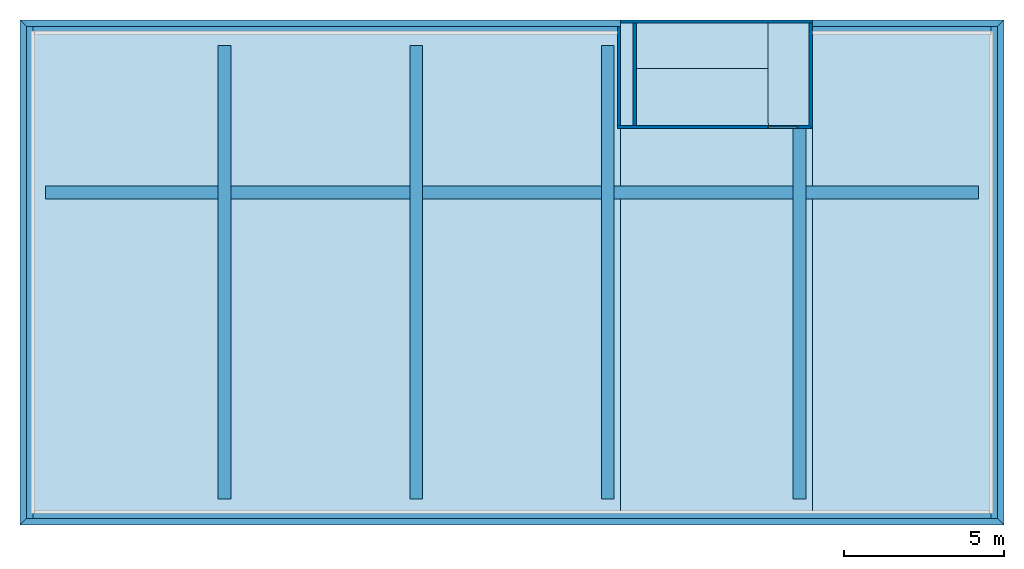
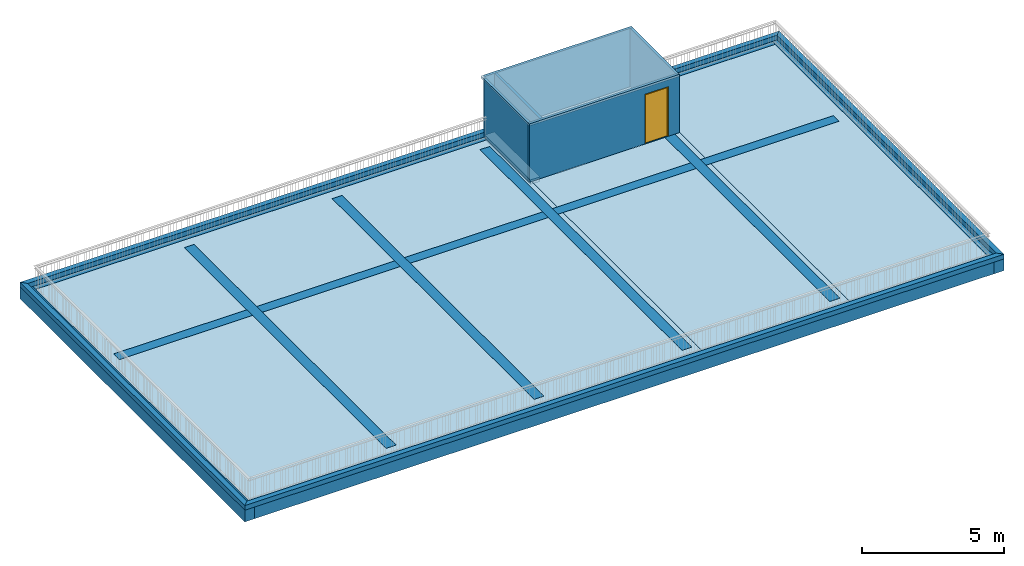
# One storey, part 1 of 2: 10 walls, 9 beams, 7 slabs, 1 door, 1 opening.
"""IFC2X3 building model written with IfcOpenShell, lengths in millimetres."""

from ifc_helpers import new_model, entity, si_unit, converted_unit, direction, frame, frame_2d, origin_with_axes, origin_2d_with_axis, place, context, project, spatial, polyline, rectangle, outline, extrude, open_shell, surface_model, material, layer, layer_set, layer_usage, type_object, element, fill, save


model = new_model("IFC2X3")

# Units and contexts
model_context = context("Model", 3, precision=1e-05, world=origin_with_axes(), true_north=direction((0.0, 1.0)))
ifc_project = project(units=[si_unit("LENGTHUNIT", "METRE", prefix="MILLI"), si_unit("AREAUNIT", "SQUARE_METRE"), si_unit("VOLUMEUNIT", "CUBIC_METRE"), converted_unit("PLANEANGLEUNIT", "DEGREE", entity("IfcPlaneAngleMeasure", 0.017453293), si_unit("PLANEANGLEUNIT", "RADIAN"), dimensions=[0, 0, 0, 0, 0, 0, 0]), si_unit("SOLIDANGLEUNIT", "STERADIAN"), si_unit("MASSUNIT", "GRAM"), si_unit("TIMEUNIT", "SECOND"), si_unit("THERMODYNAMICTEMPERATUREUNIT", "DEGREE_CELSIUS"), si_unit("LUMINOUSINTENSITYUNIT", "LUMEN")], contexts=[model_context])

# Site, building, storey
site_placement = place(None, origin_with_axes())
site = spatial("IfcSite", under=ifc_project, at=site_placement, Name="\x83T\x83C\x83g", CompositionType="ELEMENT")
building_placement = place(site_placement, origin_with_axes())
building = spatial("IfcBuilding", under=site, at=building_placement, Name="Daitec-Sample 201208", CompositionType="ELEMENT")
storey_placement = place(building_placement, frame((0.0, 0.0, 12000.0), z_axis=(0.0, 0.0, 1.0), x_axis=(1.0, 0.0, 0.0)))
storey = spatial("IfcBuildingStorey", under=building, at=storey_placement, Name="RF", CompositionType="ELEMENT", Elevation=12000.0)

# Beams
ifc_material_1 = material(Name="\x83R\x83\x93\x83N\x83\x8a\x81[\x83g-\x8d\\\x91¢2")
beam_type = type_object("IfcBeamType", Name="500X400", PredefinedType="NOTDEFINED")
beam_1_placement = place(storey_placement, frame((12500.0, 23000.0, 0.0), z_axis=(0.0, 0.0, 1.0), x_axis=(-1.0, 0.0, 0.0)))
element("IfcBeam", 1, at=beam_1_placement, inside=storey, type_object=beam_type, material=ifc_material_1, Name="G0", ObjectType="500X400", context=model_context, shape_type="SweptSolid", body=[
    extrude(rectangle(XDim=500.0, YDim=400.0, at=frame_2d((-250.0, 0.0), x_axis=(1.0, 0.0))), frame((0.0, 0.0, 0.0), z_axis=(0.0, 1.0, 0.0), x_axis=(0.0, 0.0, 1.0)), (0.0, 0.0, 1.0), 14200.0),
])
beam_2_placement = place(storey_placement, frame((36900.0, 23800.0, 0.0), z_axis=(0.0, 0.0, 1.0), x_axis=(0.0, 1.0, 0.0)))
element("IfcBeam", 2, at=beam_2_placement, inside=storey, type_object=beam_type, material=ifc_material_1, Name="G8", ObjectType="500X400", context=model_context, shape_type="SweptSolid", body=[
    extrude(rectangle(XDim=500.0, YDim=400.0, at=frame_2d((-250.0, -200.0), x_axis=(1.0, 0.0))), frame((0.0, 0.0, 0.0), z_axis=(0.0, 1.0, 0.0), x_axis=(0.0, 0.0, 1.0)), (0.0, 0.0, 1.0), 30800.0),
])
for number, where, z_axis, x_axis, name in (
    (3, (36900.0, 8000.0, 0.0), (0.0, 0.0, 1.0), (1.0, 0.0, 0.0), "G7"),
    (4, (6100.0, 23800.0, 0.0), (0.0, 0.0, 1.0), (-1.0, 0.0, 0.0), "G9"),
):
    element("IfcBeam", number, at=place(storey_placement, frame(where, z_axis=z_axis, x_axis=x_axis)), inside=storey, type_object=beam_type, material=ifc_material_1, Name=name, ObjectType="500X400", context=model_context, shape_type="SweptSolid", body=[
        extrude(rectangle(XDim=500.0, YDim=400.0, at=frame_2d((-250.0, -200.0), x_axis=(1.0, 0.0))), frame((0.0, 0.0, 0.0), z_axis=(0.0, 1.0, 0.0), x_axis=(0.0, 0.0, 1.0)), (0.0, 0.0, 1.0), 15800.0),
    ])
beam_3_placement = place(storey_placement, frame((24500.0, 23000.0, 0.0), z_axis=(0.0, 0.0, 1.0), x_axis=(-1.0, 0.0, 0.0)))
element("IfcBeam", 5, at=beam_3_placement, inside=storey, type_object=beam_type, material=ifc_material_1, Name="G2", ObjectType="500X400", context=model_context, shape_type="SweptSolid", body=[
    extrude(rectangle(XDim=500.0, YDim=400.0, at=frame_2d((-250.0, 0.0), x_axis=(1.0, 0.0))), frame((0.0, 0.0, 0.0), z_axis=(0.0, 1.0, 0.0), x_axis=(0.0, 0.0, 1.0)), (0.0, 0.0, 1.0), 14200.0),
])
beam_4_placement = place(storey_placement, frame((6100.0, 8000.0, 0.0), z_axis=(0.0, 0.0, 1.0), x_axis=(0.0, -1.0, 0.0)))
element("IfcBeam", 6, at=beam_4_placement, inside=storey, type_object=beam_type, material=ifc_material_1, Name="G6", ObjectType="500X400", context=model_context, shape_type="SweptSolid", body=[
    extrude(rectangle(XDim=500.0, YDim=400.0, at=frame_2d((-250.0, -200.0), x_axis=(1.0, 0.0))), frame((0.0, 0.0, 0.0), z_axis=(0.0, 1.0, 0.0), x_axis=(0.0, 0.0, 1.0)), (0.0, 0.0, 1.0), 30800.0),
])
for number, where, z_axis, x_axis, name in (
    (7, (30500.0, 23000.0, 0.0), (0.0, 0.0, 1.0), (-1.0, 0.0, 0.0), "G3"),
    (8, (18500.0, 23000.0, 0.0), (0.0, 0.0, 1.0), (-1.0, 0.0, 0.0), "G1"),
):
    element("IfcBeam", number, at=place(storey_placement, frame(where, z_axis=z_axis, x_axis=x_axis)), inside=storey, type_object=beam_type, material=ifc_material_1, Name=name, ObjectType="500X400", context=model_context, shape_type="SweptSolid", body=[
        extrude(rectangle(XDim=500.0, YDim=400.0, at=frame_2d((-250.0, 0.0), x_axis=(1.0, 0.0))), frame((0.0, 0.0, 0.0), z_axis=(0.0, 1.0, 0.0), x_axis=(0.0, 0.0, 1.0)), (0.0, 0.0, 1.0), 14200.0),
    ])
beam_5_placement = place(storey_placement, frame((6900.0, 18400.0, 0.0), z_axis=(0.0, 0.0, 1.0), x_axis=(0.0, -1.0, 0.0)))
element("IfcBeam", 9, at=beam_5_placement, inside=storey, type_object=beam_type, material=ifc_material_1, Name="G4", ObjectType="500X400", context=model_context, shape_type="SweptSolid", body=[
    extrude(rectangle(XDim=500.0, YDim=400.0, at=frame_2d((-250.0, 0.0), x_axis=(1.0, 0.0))), frame((0.0, 0.0, 0.0), z_axis=(0.0, 1.0, 0.0), x_axis=(0.0, 0.0, 1.0)), (0.0, 0.0, 1.0), 29200.0),
])

# Slabs
ifc_layer_1 = layer(ifc_material_1, 200.0, ventilated="UNKNOWN")
ifc_layer_set_1 = layer_set([ifc_layer_1], Name="\x83R\x83\x93\x83N\x83\x8a\x81[\x83g-\x8d\\\x91¢2 200")
ifc_layer_usage_1 = layer_usage(ifc_layer_set_1, "AXIS3", "NEGATIVE", 200.0)
slab_1_placement = place(storey_placement, frame((24900.0, 8000.0, -200.0), z_axis=(0.0, 0.0, 1.0), x_axis=(1.0, 0.0, 0.0)))
element("IfcSlab", 10, at=slab_1_placement, inside=storey, material=ifc_layer_usage_1, Name="S0", PredefinedType="FLOOR", context=model_context, shape_type="SweptSolid", body=[
    extrude(outline(polyline([(0.0, 0.0), (6000.0, 0.0), (6000.0, 12399.909), (0.0, 12399.909), (0.0, 0.0)])), origin_with_axes(), (0.0, 0.0, 1.0), 200.0),
])
ifc_layer_usage_2 = layer_usage(ifc_layer_set_1, "AXIS3", "NEGATIVE", 200.0)
slab_2_placement = place(storey_placement, frame((25393.973, 23700.0, -200.0), z_axis=(0.0, 0.0, 1.0), x_axis=(1.0, 0.0, 0.0)))
element("IfcSlab", 11, at=slab_2_placement, inside=storey, material=ifc_layer_usage_2, Name="S8", PredefinedType="FLOOR", context=model_context, shape_type="SweptSolid", body=[
    extrude(outline(polyline([(0.0, 0.0), (0.0, -1425.0), (4121.5693, -1425.189), (4117.1773, 0.0), (0.0, 0.0)])), origin_with_axes(), (0.0, 0.0, 1.0), 200.0),
])
ifc_material_2 = material(Name="\x93V\x88ä1")
ifc_layer_2 = layer(ifc_material_2, 100.0, ventilated="UNKNOWN")
ifc_layer_set_2 = layer_set([ifc_layer_2], Name="\x93V\x88ä1 100")
ifc_layer_usage_3 = layer_usage(ifc_layer_set_2, "AXIS3", "NEGATIVE", 100.0)
slab_3_placement = place(storey_placement, frame((24800.0, 23800.0, 2400.0), z_axis=(0.0, 0.0, 1.0), x_axis=(1.0, 0.0, 0.0)))
element("IfcSlab", 12, at=slab_3_placement, inside=storey, material=ifc_layer_usage_3, Name="S6", PredefinedType="FLOOR", context=model_context, shape_type="SweptSolid", body=[
    extrude(outline(polyline([(0.0, 0.0), (0.0, -3396.613), (6100.0, -3400.0911), (6100.0, 0.0), (0.0, 0.0)])), origin_with_axes(), (0.0, 0.0, 1.0), 100.0),
])
ifc_layer_usage_4 = layer_usage(ifc_layer_set_1, "AXIS3", "NEGATIVE", 200.0)
slab_4_placement = place(storey_placement, frame((29511.151, 23700.0, -200.0), z_axis=(0.0, 0.0, 1.0), x_axis=(1.0, 0.0, 0.0)))
element("IfcSlab", 13, at=slab_4_placement, inside=storey, material=ifc_layer_usage_4, Name="S6", PredefinedType="FLOOR", context=model_context, shape_type="SweptSolid", body=[
    extrude(outline(polyline([(0.0, 0.0), (10.159033, -3296.613), (1288.7902, -3300.0341), (1288.8492, 0.0), (0.0, 0.0)])), origin_with_axes(), (0.0, 0.0, 1.0), 200.0),
])
ifc_material_3 = material(Name="\x83v\x83\x89\x83X\x83^\x81[\x83{\x81[\x83h")
ifc_layer_3 = layer(ifc_material_3, 200.0, ventilated="UNKNOWN")
ifc_layer_set_3 = layer_set([ifc_layer_3], Name="\x83v\x83\x89\x83X\x83^\x81[\x83{\x81[\x83h 200")
ifc_layer_usage_5 = layer_usage(ifc_layer_set_3, "AXIS3", "NEGATIVE", 200.0)
slab_5_placement = place(storey_placement, frame((24900.0, 23700.0, -200.0), z_axis=(0.0, 0.0, 1.0), x_axis=(1.0, 0.0, 0.0)))
element("IfcSlab", 14, at=slab_5_placement, inside=storey, material=ifc_layer_usage_5, Name="S7", PredefinedType="FLOOR", context=model_context, shape_type="SweptSolid", body=[
    extrude(outline(polyline([(0.0, 0.0), (0.0, -3196.613), (393.97347, -3196.613), (393.97347, 0.0), (0.0, 0.0)])), origin_with_axes(), (0.0, 0.0, 1.0), 200.0),
])
ifc_layer_usage_6 = layer_usage(ifc_layer_set_1, "AXIS3", "NEGATIVE", 200.0)
slab_6_placement = place(storey_placement, frame((6100.0, 23800.0, -200.0), z_axis=(0.0, 0.0, 1.0), x_axis=(1.0, 0.0, 0.0)))
element("IfcSlab", 15, at=slab_6_placement, inside=storey, material=ifc_layer_usage_6, Name="S9", PredefinedType="FLOOR", context=model_context, shape_type="SweptSolid", body=[
    extrude(outline(polyline([(0.0, 0.0), (0.0, -15800.0), (18800.0, -15800.0), (18800.0, 0.0), (0.0, 0.0)])), origin_with_axes(), (0.0, 0.0, 1.0), 200.0),
])
ifc_layer_usage_7 = layer_usage(ifc_layer_set_1, "AXIS3", "NEGATIVE", 200.0)
slab_7_placement = place(storey_placement, frame((36900.0, 8000.0, -200.0), z_axis=(0.0, 0.0, 1.0), x_axis=(1.0, 0.0, 0.0)))
element("IfcSlab", 16, at=slab_7_placement, inside=storey, material=ifc_layer_usage_7, Name="S1", PredefinedType="FLOOR", context=model_context, shape_type="SweptSolid", body=[
    extrude(outline(polyline([(0.0, 0.0), (0.0, 15800.0), (-6000.0, 15800.0), (-6000.0, 0.0), (0.0, 0.0)])), origin_with_axes(), (0.0, 0.0, 1.0), 200.0),
])

# Wall, opening, door
ifc_layer_4 = layer(ifc_material_1, 100.0, ventilated="UNKNOWN")
ifc_layer_set_4 = layer_set([ifc_layer_4], Name="\x83R\x83\x93\x83N\x83\x8a\x81[\x83g-\x8d\\\x91¢2 100")
ifc_layer_usage_8 = layer_usage(ifc_layer_set_4, "AXIS2", "NEGATIVE", 0.0)
wall_type_1 = type_object("IfcWallType", Name="\x83R\x83\x93\x83N\x83\x8a\x81[\x83g-\x8d\\\x91¢2 100", PredefinedType="NOTDEFINED")
wall_1_placement = place(storey_placement, frame((30900.0, 20403.387, 0.0), z_axis=(0.0, 0.0, 1.0), x_axis=(-1.0, 0.0, 0.0)))
wall_1 = element("IfcWallStandardCase", 17, at=wall_1_placement, inside=storey, type_object=wall_type_1, material=ifc_layer_usage_8, Name="W3", context=model_context, shape_type="SweptSolid", body=[
    extrude(outline(polyline([(100.0, -100.0), (6100.0, -100.0), (6100.0, 0.0), (0.0, 0.0), (100.0, -100.0)])), origin_with_axes(), (0.0, 0.0, 1.0), 2500.0),
])
opening_placement = place(wall_1_placement, frame((928.69016, 0.0, 0.0), z_axis=(0.0, 0.0, 1.0), x_axis=(1.0, 0.0, 0.0)))
opening = element("IfcOpeningElement", 18, at=opening_placement, cuts=wall_1, context=model_context, shape_type="SweptSolid", body=[
    extrude(rectangle(XDim=960.0, YDim=2130.0, at=origin_2d_with_axis()), frame((0.0, -51.0, 1065.0), z_axis=(0.0, 1.0, 0.0), x_axis=(1.0, 0.0, 0.0)), (0.0, 0.0, 1.0), 102.0),
])
ifc_material_4 = material(Name="\x94w\x8ci")
door_style = type_object("IfcDoorStyle", ConstructionType="NOTDEFINED", OperationType="NOTDEFINED", ParameterTakesPrecedence=False, Sizeable=False)
door_placement = place(opening_placement, frame((450.0, 0.0, 0.0), z_axis=(0.0, 0.0, 1.0), x_axis=(-1.0, 0.0, 0.0)))
door = element("IfcDoor", 19, at=door_placement, inside=storey, type_object=door_style, material=ifc_material_4, Name="SD8", OverallHeight=2100.0, OverallWidth=900.0, context=model_context, shape_type="SurfaceModel", body=[
    surface_model("IfcShellBasedSurfaceModel", [(900.0, 50.0, 0.0), (900.0, 50.0, 2100.0), (0.0, 50.0, 2100.0), (0.0, 50.0, 0.0)], [open_shell([[[0, 1, 2, 3]]])]),
    surface_model("IfcShellBasedSurfaceModel", [(930.0, 0.0, 0.0), (930.0, 0.0, 2130.0), (-30.0, 0.0, 2130.0), (-30.0, 0.0, 0.0), (0.0, 0.0, 0.0), (0.0, 0.0, 2100.0), (900.0, 0.0, 2100.0), (900.0, 0.0, 0.0)], [open_shell([[[0, 1, 2, 3, 4, 5, 6, 7]]])]),
    surface_model("IfcShellBasedSurfaceModel", [(930.0, 100.0, 0.0), (930.0, 100.0, 2130.0), (-30.0, 100.0, 2130.0), (-30.0, 100.0, 0.0), (0.0, 100.0, 0.0), (0.0, 100.0, 2100.0), (900.0, 100.0, 2100.0), (900.0, 100.0, 0.0)], [open_shell([[[0, 1, 2, 3, 4, 5, 6, 7]]])]),
    surface_model("IfcShellBasedSurfaceModel", [(900.0, 0.0, 0.0), (900.0, 0.0, 2100.0), (900.0, 100.0, 2100.0), (900.0, 100.0, 0.0), (0.0, 0.0, 2100.0), (0.0, 100.0, 2100.0), (930.0, 0.0, 0.0), (930.0, 100.0, 0.0), (0.0, 0.0, 0.0), (0.0, 100.0, 0.0), (930.0, 0.0, 2130.0), (930.0, 100.0, 2130.0), (-30.0, 0.0, 0.0), (-30.0, 100.0, 0.0), (-30.0, 0.0, 2130.0), (-30.0, 100.0, 2130.0)], [open_shell([[[0, 1, 2, 3]], [[1, 4, 5, 2]], [[6, 0, 3, 7]], [[4, 8, 9, 5]], [[10, 6, 7, 11]], [[8, 12, 13, 9]], [[14, 10, 11, 15]], [[12, 14, 15, 13]]])]),
])
fill(opening, door)

# Walls
ifc_layer_usage_9 = layer_usage(ifc_layer_set_4, "AXIS2", "NEGATIVE", 0.0)
wall_2_placement = place(storey_placement, frame((30900.0, 23800.0, 0.0), z_axis=(0.0, 0.0, 1.0), x_axis=(0.0, -1.0, 0.0)))
element("IfcWallStandardCase", 20, at=wall_2_placement, inside=storey, type_object=wall_type_1, material=ifc_layer_usage_9, Name="W2", context=model_context, shape_type="SweptSolid", body=[
    extrude(outline(polyline([(100.0, -100.0), (3296.613, -100.0), (3396.613, 0.0), (100.0, 0.0), (100.0, -100.0)])), origin_with_axes(), (0.0, 0.0, 1.0), 2500.0),
])
ifc_layer_usage_10 = layer_usage(ifc_layer_set_4, "AXIS2", "NEGATIVE", 0.0)
wall_3_placement = place(storey_placement, frame((24900.0, 23800.0, 0.0), z_axis=(0.0, 0.0, 1.0), x_axis=(1.0, 0.0, 0.0)))
element("IfcWallStandardCase", 21, at=wall_3_placement, inside=storey, type_object=wall_type_1, material=ifc_layer_usage_10, Name="W1", context=model_context, shape_type="SweptSolid", body=[
    extrude(outline(polyline([(0.0, -100.0), (6000.0, -100.0), (6000.0, 0.0), (0.0, 0.0), (0.0, -100.0)])), origin_with_axes(), (0.0, 0.0, 1.0), 2500.0),
])
ifc_layer_usage_11 = layer_usage(ifc_layer_set_4, "AXIS2", "NEGATIVE", 0.0)
wall_4_placement = place(storey_placement, frame((25393.973, 23800.0, 0.0), z_axis=(0.0, 0.0, 1.0), x_axis=(0.0, -1.0, 0.0)))
element("IfcWallStandardCase", 22, at=wall_4_placement, inside=storey, type_object=wall_type_1, material=ifc_layer_usage_11, Name="W0", context=model_context, shape_type="SweptSolid", body=[
    extrude(outline(polyline([(100.0, -100.0), (3296.613, -100.0), (3296.613, 0.0), (100.0, 0.0), (100.0, -100.0)])), origin_with_axes(), (0.0, 0.0, 1.0), 2500.0),
])
ifc_layer_usage_12 = layer_usage(ifc_layer_set_4, "AXIS2", "NEGATIVE", 0.0)
wall_5_placement = place(storey_placement, frame((24900.0, 23800.0, 0.0), z_axis=(0.0, 0.0, 1.0), x_axis=(0.0, -1.0, 0.0)))
element("IfcWallStandardCase", 23, at=wall_5_placement, inside=storey, type_object=wall_type_1, material=ifc_layer_usage_12, Name="W6", context=model_context, shape_type="SweptSolid", body=[
    extrude(outline(polyline([(200.0, -100.0), (3296.613, -100.0), (3296.613, 0.0), (200.0, 0.0), (200.0, -100.0)])), origin_with_axes(), (0.0, 0.0, 1.0), 2500.0),
])
ifc_material_5 = material(Name="\x83R\x83\x93\x83N\x83\x8a\x81[\x83g-\x8cy\x97Ê")
ifc_layer_5 = layer(ifc_material_5, 200.0, ventilated="UNKNOWN")
ifc_layer_set_5 = layer_set([ifc_layer_5], Name="\x83R\x83\x93\x83N\x83\x8a\x81[\x83g-\x8cy\x97Ê 200")
ifc_layer_usage_13 = layer_usage(ifc_layer_set_5, "AXIS2", "POSITIVE", 0.0)
wall_type_2 = type_object("IfcWallType", Name="\x83R\x83\x93\x83N\x83\x8a\x81[\x83g-\x8cy\x97Ê 200", PredefinedType="NOTDEFINED")
wall_6_placement = place(storey_placement, frame((36900.0, 23800.0, 0.0), z_axis=(0.0, 0.0, 1.0), x_axis=(-1.0, 0.0, 0.0)))
element("IfcWallStandardCase", 24, at=wall_6_placement, inside=storey, type_object=wall_type_2, material=ifc_layer_usage_13, Name="W9", context=model_context, shape_type="SweptSolid", body=[
    extrude(outline(polyline([(0.0, 0.0), (6000.0, 0.0), (6000.0, 200.0), (200.0, 200.0), (0.0, 0.0)])), origin_with_axes(), (0.0, 0.0, 1.0), 200.0),
])
ifc_layer_usage_14 = layer_usage(ifc_layer_set_5, "AXIS2", "POSITIVE", 0.0)
wall_7_placement = place(storey_placement, frame((24900.0, 23800.0, 0.0), z_axis=(0.0, 0.0, 1.0), x_axis=(-1.0, 0.0, 0.0)))
element("IfcWallStandardCase", 25, at=wall_7_placement, inside=storey, type_object=wall_type_2, material=ifc_layer_usage_14, Name="W0", context=model_context, shape_type="SweptSolid", body=[
    extrude(outline(polyline([(0.0, 0.0), (18800.0, 0.0), (18600.0, 200.0), (0.0, 200.0), (0.0, 0.0)])), origin_with_axes(), (0.0, 0.0, 1.0), 200.0),
])
ifc_layer_usage_15 = layer_usage(ifc_layer_set_5, "AXIS2", "POSITIVE", 0.0)
wall_8_placement = place(storey_placement, frame((6100.0, 23800.0, 0.0), z_axis=(0.0, 0.0, 1.0), x_axis=(0.0, -1.0, 0.0)))
element("IfcWallStandardCase", 26, at=wall_8_placement, inside=storey, type_object=wall_type_2, material=ifc_layer_usage_15, Name="W1", context=model_context, shape_type="SweptSolid", body=[
    extrude(outline(polyline([(0.0, 0.0), (15800.0, 0.0), (15600.0, 200.0), (200.0, 200.0), (0.0, 0.0)])), origin_with_axes(), (0.0, 0.0, 1.0), 200.0),
])
ifc_layer_usage_16 = layer_usage(ifc_layer_set_5, "AXIS2", "POSITIVE", 0.0)
wall_9_placement = place(storey_placement, frame((6100.0, 8000.0, 0.0), z_axis=(0.0, 0.0, 1.0), x_axis=(1.0, 0.0, 0.0)))
element("IfcWallStandardCase", 27, at=wall_9_placement, inside=storey, type_object=wall_type_2, material=ifc_layer_usage_16, Name="W7", context=model_context, shape_type="SweptSolid", body=[
    extrude(outline(polyline([(0.0, 0.0), (30800.0, 0.0), (30600.0, 200.0), (200.0, 200.0), (0.0, 0.0)])), origin_with_axes(), (0.0, 0.0, 1.0), 200.0),
])
ifc_layer_usage_17 = layer_usage(ifc_layer_set_5, "AXIS2", "POSITIVE", 0.0)
wall_10_placement = place(storey_placement, frame((36900.0, 8000.0, 0.0), z_axis=(0.0, 0.0, 1.0), x_axis=(0.0, 1.0, 0.0)))
element("IfcWallStandardCase", 28, at=wall_10_placement, inside=storey, type_object=wall_type_2, material=ifc_layer_usage_17, Name="W8", context=model_context, shape_type="SweptSolid", body=[
    extrude(outline(polyline([(0.0, 0.0), (15800.0, 0.0), (15600.0, 200.0), (200.0, 200.0), (0.0, 0.0)])), origin_with_axes(), (0.0, 0.0, 1.0), 200.0),
])

save(model, "model.ifc")
